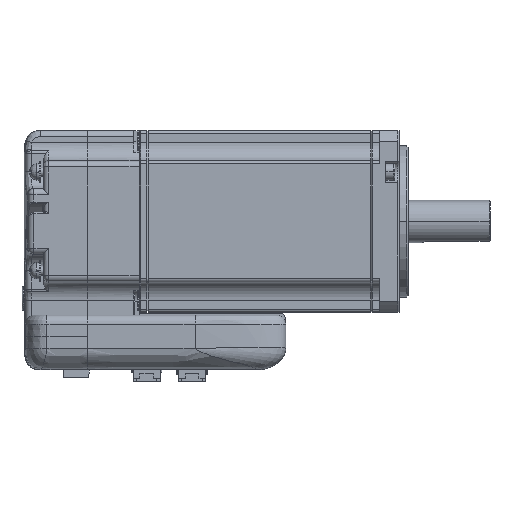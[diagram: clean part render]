
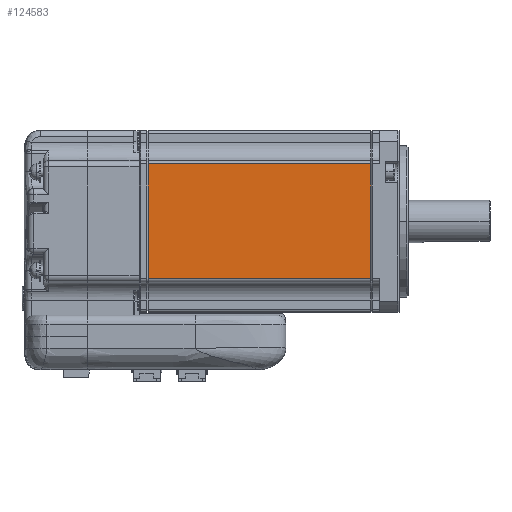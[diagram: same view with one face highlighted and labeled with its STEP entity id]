
A CAD part, top view. The second image highlights one B-rep face of the part: STEP entity #124583.
In plain terms, the highlighted planar face has unit normal (0, 0, 1) as drawn and (1, 0, 0) by its records, which use the part's own axes.
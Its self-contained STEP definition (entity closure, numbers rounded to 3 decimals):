
#121595=DIRECTION('',(0.,-1.,0.));
#121596=VECTOR('',#121595,38.);
#121597=CARTESIAN_POINT('',(22.128,28.84,30.25));
#121598=LINE('',#121597,#121596);
#122046=DIRECTION('',(0.,0.,1.));
#122047=VECTOR('',#122046,73.5);
#122048=CARTESIAN_POINT('',(22.128,-9.16,30.25));
#122049=LINE('',#122048,#122047);
#122270=DIRECTION('',(0.,0.,-1.));
#122271=VECTOR('',#122270,73.5);
#122272=CARTESIAN_POINT('',(22.128,28.84,103.75));
#122273=LINE('',#122272,#122271);
#122284=DIRECTION('',(0.,-1.,0.));
#122285=VECTOR('',#122284,38.);
#122286=CARTESIAN_POINT('',(22.128,28.84,103.75));
#122287=LINE('',#122286,#122285);
#123535=CARTESIAN_POINT('',(22.128,-9.16,30.25));
#123537=VERTEX_POINT('',#123535);
#123705=CARTESIAN_POINT('',(22.128,28.84,30.25));
#123706=VERTEX_POINT('',#123705);
#123817=CARTESIAN_POINT('',(22.128,-9.16,103.75));
#123818=VERTEX_POINT('',#123817);
#123821=CARTESIAN_POINT('',(22.128,28.84,103.75));
#123822=VERTEX_POINT('',#123821);
#124571=CARTESIAN_POINT('',(22.128,28.84,103.75));
#124572=DIRECTION('',(-1.,0.,0.));
#124573=DIRECTION('',(0.,0.,1.));
#124574=AXIS2_PLACEMENT_3D('',#124571,#124572,#124573);
#124575=PLANE('',#124574);
#124576=ORIENTED_EDGE('',*,*,#123964,.T.);
#124577=ORIENTED_EDGE('',*,*,#124097,.T.);
#124579=ORIENTED_EDGE('',*,*,#124578,.F.);
#124580=ORIENTED_EDGE('',*,*,#124556,.T.);
#124581=EDGE_LOOP('',(#124576,#124577,#124579,#124580));
#124582=FACE_OUTER_BOUND('',#124581,.F.);
#124583=ADVANCED_FACE('',(#124582),#124575,.F.);
#123964=EDGE_CURVE('',#123706,#123537,#121598,.T.);
#124097=EDGE_CURVE('',#123537,#123818,#122049,.T.);
#124556=EDGE_CURVE('',#123822,#123706,#122273,.T.);
#124578=EDGE_CURVE('',#123822,#123818,#122287,.T.);
